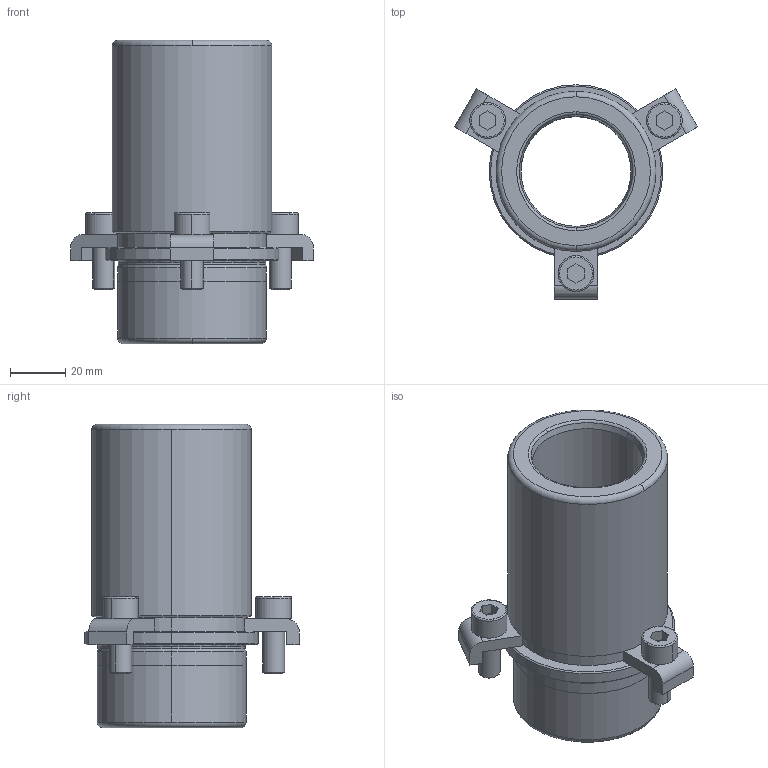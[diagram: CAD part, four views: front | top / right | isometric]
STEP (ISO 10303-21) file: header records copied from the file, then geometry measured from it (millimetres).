
FILE_DESCRIPTION((''),'2;1');
FILE_NAME('B40_032_080.stp','2009-01-05T16:29:41',(''),(''),'Mechanical Desktop 2009','Mechanical Desktop 2009',', , ');
FILE_SCHEMA(('CONFIG_CONTROL_DESIGN'));
Length unit declared in the file: millimetre
Products named in the file (2): Product; blmdl1
Assembly tree (1 placements, depth 2):
  Product
    blmdl1
Bounding box: 88.14 x 77.8 x 110 mm (x, y, z)
Volume: 151619 mm3; surface area: 43958.8 mm2
Topology: 7 solids, 7 shells, 147 faces, 362 edges, 238 vertices
Faces by surface type: plane 62, cylinder 41, cone 20, torus 14, bspline 10
Entity records: 4933 total; most frequent: CARTESIAN_POINT 1189, DIRECTION 824, ORIENTED_EDGE 724, EDGE_CURVE 362, AXIS2_PLACEMENT_3D 323, VERTEX_POINT 238, CIRCLE 184, VECTOR 178
